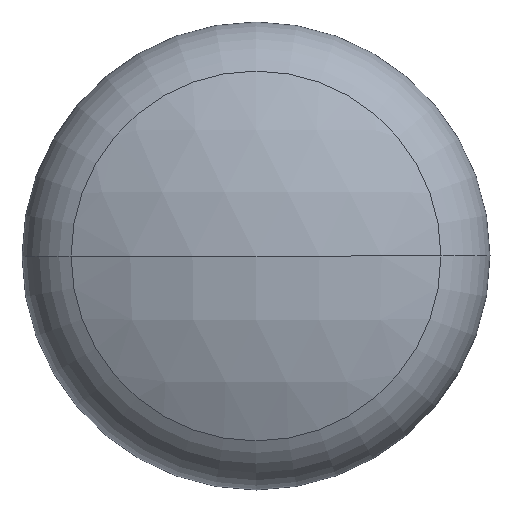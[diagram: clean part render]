
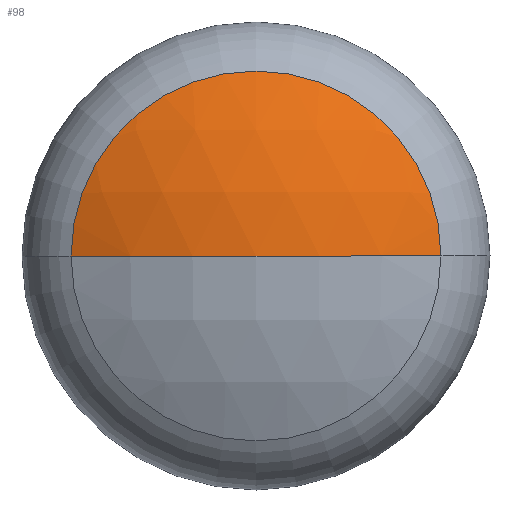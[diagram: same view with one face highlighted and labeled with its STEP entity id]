
A CAD part, front view. The second image highlights one B-rep face of the part: STEP entity #98.
In plain terms, the highlighted spherical face has radius 137.643 mm.
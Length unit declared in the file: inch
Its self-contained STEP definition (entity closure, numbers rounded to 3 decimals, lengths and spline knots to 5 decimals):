
#18 = CARTESIAN_POINT ( 'NONE',  ( 0., 3.419, 0. ) ) ;
#36 = AXIS2_PLACEMENT_3D ( 'NONE', #153, #65, #365 ) ;
#46 = EDGE_LOOP ( 'NONE', ( #349, #277, #107 ) ) ;
#52 = DIRECTION ( 'NONE',  ( -1., 0., 0. ) ) ;
#65 = DIRECTION ( 'NONE',  ( 0., 0., 1. ) ) ;
#81 = VERTEX_POINT ( 'NONE', #109 ) ;
#96 = DIRECTION ( 'NONE',  ( 1., 0., 0. ) ) ;
#98 = ADVANCED_FACE ( 'NONE', ( #155 ), #188, .T. ) ;
#107 = ORIENTED_EDGE ( 'NONE', *, *, #281, .F. ) ;
#109 = CARTESIAN_POINT ( 'NONE',  ( 0., -2., 0. ) ) ;
#127 = AXIS2_PLACEMENT_3D ( 'NONE', #18, #307, #96 ) ;
#131 = DIRECTION ( 'NONE',  ( -1., 0., 0. ) ) ;
#153 = CARTESIAN_POINT ( 'NONE',  ( 0., 3.419, 0. ) ) ;
#155 = FACE_OUTER_BOUND ( 'NONE', #46, .T. ) ;
#159 = CARTESIAN_POINT ( 'NONE',  ( -2.3705, -1.45402, 0. ) ) ;
#188 = SPHERICAL_SURFACE ( 'NONE', #36, 5.419 ) ;
#191 = CARTESIAN_POINT ( 'NONE',  ( 0., 3.419, 0. ) ) ;
#209 = CIRCLE ( 'NONE', #230, 2.3705 ) ;
#226 = DIRECTION ( 'NONE',  ( 0., 1., 0. ) ) ;
#230 = AXIS2_PLACEMENT_3D ( 'NONE', #258, #226, #52 ) ;
#240 = EDGE_CURVE ( 'NONE', #81, #285, #252, .T. ) ;
#243 = EDGE_CURVE ( 'NONE', #81, #245, #324, .T. ) ;
#245 = VERTEX_POINT ( 'NONE', #159 ) ;
#252 = CIRCLE ( 'NONE', #127, 5.419 ) ;
#258 = CARTESIAN_POINT ( 'NONE',  ( 0., -1.45402, 0. ) ) ;
#277 = ORIENTED_EDGE ( 'NONE', *, *, #240, .T. ) ;
#278 = DIRECTION ( 'NONE',  ( 0., 0., -1. ) ) ;
#281 = EDGE_CURVE ( 'NONE', #245, #285, #209, .T. ) ;
#285 = VERTEX_POINT ( 'NONE', #380 ) ;
#307 = DIRECTION ( 'NONE',  ( 0., 0., 1. ) ) ;
#324 = CIRCLE ( 'NONE', #332, 5.419 ) ;
#332 = AXIS2_PLACEMENT_3D ( 'NONE', #191, #278, #131 ) ;
#349 = ORIENTED_EDGE ( 'NONE', *, *, #243, .F. ) ;
#365 = DIRECTION ( 'NONE',  ( -1., 0., 0. ) ) ;
#380 = CARTESIAN_POINT ( 'NONE',  ( 2.3705, -1.45402, 0. ) ) ;
